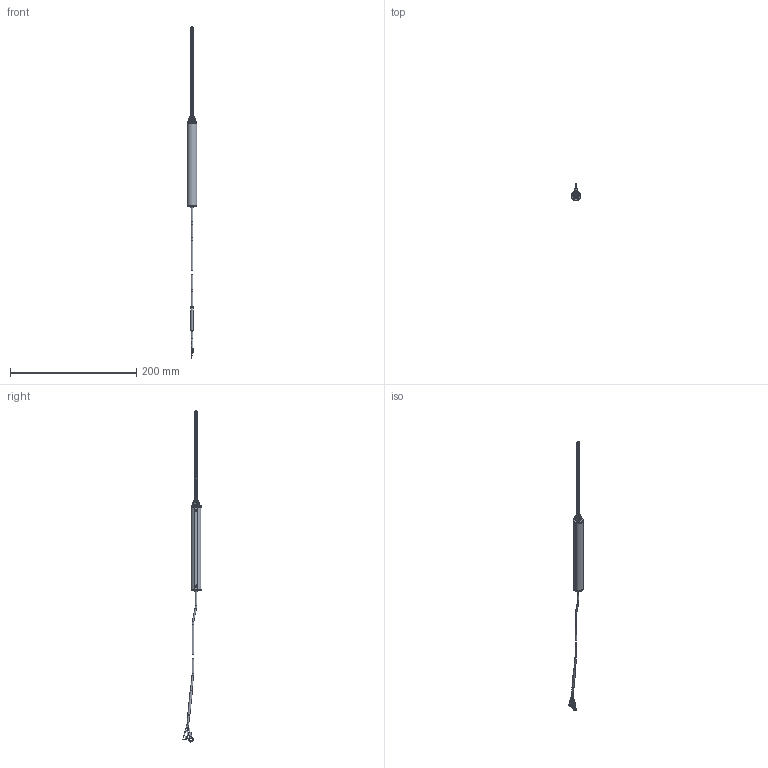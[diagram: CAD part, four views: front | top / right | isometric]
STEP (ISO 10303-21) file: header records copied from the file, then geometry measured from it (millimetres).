
FILE_DESCRIPTION(/* description */ (''),/* implementation_level */ '2;1');
FILE_NAME(/* name */ 'D:\Users\Justin\Documents\CAD Drawings\The Sensor Connection\LPPS\LPPS-MSL\3D\LPPS-MSL-100\LPPS-MSL-100.stp',/* time_stamp */ '2019-08-29T15:32:01-04:00',/* author */ ('Justin'),/* organization */ (''),/* preprocessor_version */ 'ST-DEVELOPER v18',/* originating_system */ 'Autodesk Inventor 2020',/* authorisation */ '');
FILE_SCHEMA (('AUTOMOTIVE_DESIGN { 1 0 10303 214 3 1 1 }'));
Length unit declared in the file: inch
Products named in the file (5): LPPS-MSL-025; LPPS-MSL-100 HOUSING_Shrinkwrap_1; LPPS-MSL-100 SHAFT_Shrinkwrap_1; ISO 4035 - M8(6); LPPS-MSL-100 Spring
Assembly tree (4 placements, depth 2):
  LPPS-MSL-025
    LPPS-MSL-100 HOUSING_Shrinkwrap_1
    LPPS-MSL-100 SHAFT_Shrinkwrap_1
    ISO 4035 - M8(6)
    LPPS-MSL-100 Spring
Bounding box: 15.1 x 28.76 x 525.78 mm (x, y, z)
Volume: 10168.7 mm3; surface area: 20302.7 mm2
Topology: 24 solids, 24 shells, 341 faces, 861 edges, 581 vertices
Faces by surface type: plane 162, cylinder 83, cone 70, torus 23, sphere 2, bspline 1
Full cylindrical faces by diameter (mm): 0.381 x3, 0.635 x3, 1.5 x1, 1.755 x4, 2 x8, 2.274 x1, 2.5 x6, 2.75 x1, 2.85 x3, 3 x1, 3.5 x5, 4.191 x1, 5 x3, 6.1 x1, 6.5 x2, 6.647 x1, 8 x1, 9 x3, 9.5 x1
Entity records: 17399 total; most frequent: CARTESIAN_POINT 8483, DIRECTION 1770, ORIENTED_EDGE 1710, EDGE_CURVE 855, AXIS2_PLACEMENT_3D 706, VERTEX_POINT 581, EDGE_LOOP 406, LINE 358
